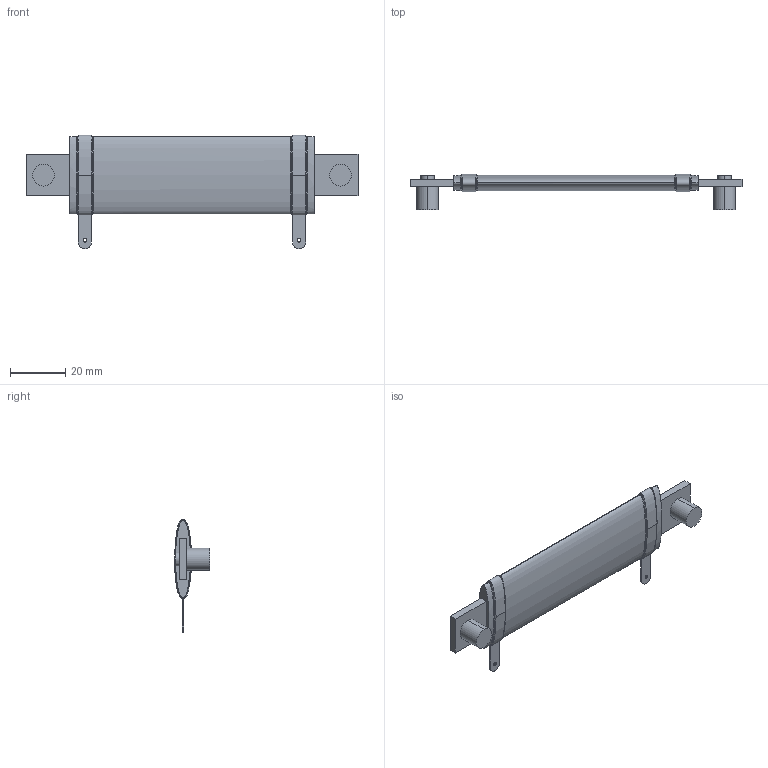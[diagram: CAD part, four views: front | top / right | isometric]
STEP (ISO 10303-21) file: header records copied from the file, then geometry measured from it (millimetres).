
FILE_DESCRIPTION (( 'STEP AP203' ), '1' );
FILE_NAME ('FSOT55-16E.STEP', '2019-11-04T15:54:26', ( '' ), ( '' ), 'SwSTEP 2.0', 'SolidWorks 2019', '' );
FILE_SCHEMA (( 'CONFIG_CONTROL_DESIGN' ));
Length unit declared in the file: millimetre
Products named in the file (1): FSOT55-16E
Bounding box: 120.66 x 12.91 x 41.12 mm (x, y, z)
Volume: 13277 mm3; surface area: 7371.7 mm2
Topology: 1 solids, 1 shells, 120 faces, 316 edges, 204 vertices
Faces by surface type: bspline 80, plane 24, cylinder 16
Entity records: 6381 total; most frequent: CARTESIAN_POINT 3879, ORIENTED_EDGE 632, DIRECTION 328, EDGE_CURVE 316, VERTEX_POINT 204, B_SPLINE_CURVE_WITH_KNOTS 158, AXIS2_PLACEMENT_3D 133, EDGE_LOOP 130
